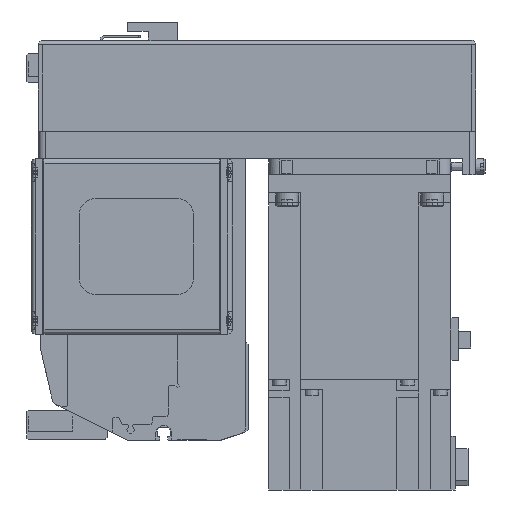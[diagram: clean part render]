
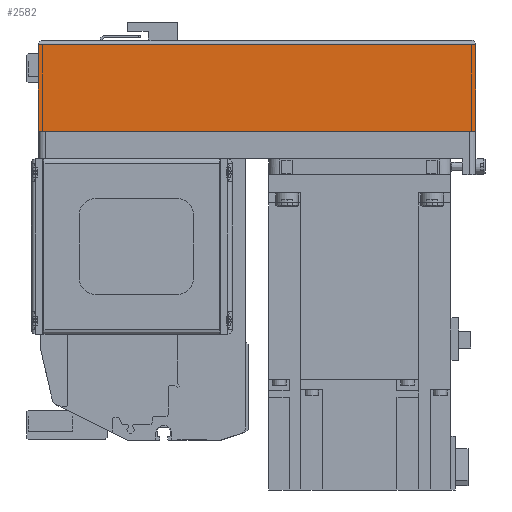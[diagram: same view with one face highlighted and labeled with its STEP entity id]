
A CAD part, left-side view. The second image highlights one B-rep face of the part: STEP entity #2582.
In plain terms, the highlighted planar face has unit normal (-1, 0, 0) as drawn and (0, -1, 0) by its records, which use the part's own axes.
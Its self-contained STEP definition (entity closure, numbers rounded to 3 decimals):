
#2582 = ADVANCED_FACE( '', ( #5730 ), #5731, .T. );
#5730 = FACE_OUTER_BOUND( '', #9534, .T. );
#5731 = PLANE( '', #9535 );
#9534 = EDGE_LOOP( '', ( #17036, #17037, #17038, #17039 ) );
#9535 = AXIS2_PLACEMENT_3D( '', #17040, #17041, #17042 );
#17036 = ORIENTED_EDGE( '', *, *, #22667, .F. );
#17037 = ORIENTED_EDGE( '', *, *, #21849, .F. );
#17038 = ORIENTED_EDGE( '', *, *, #24135, .T. );
#17039 = ORIENTED_EDGE( '', *, *, #24136, .T. );
#17040 = CARTESIAN_POINT( '', ( -192., -40., -12.1 ) );
#17041 = DIRECTION( '', ( 0., -1., 0. ) );
#17042 = DIRECTION( '', ( 0., 0., -1. ) );
#21849 = EDGE_CURVE( '', #26213, #26214, #26215, .T. );
#22667 = EDGE_CURVE( '', #26214, #27589, #27590, .T. );
#24135 = EDGE_CURVE( '', #26213, #29725, #29726, .T. );
#24136 = EDGE_CURVE( '', #29725, #27589, #29727, .T. );
#26213 = VERTEX_POINT( '', #32830 );
#26214 = VERTEX_POINT( '', #32831 );
#26215 = LINE( '', #32832, #32833 );
#27589 = VERTEX_POINT( '', #34925 );
#27590 = LINE( '', #34926, #34927 );
#29725 = VERTEX_POINT( '', #38359 );
#29726 = LINE( '', #38360, #38361 );
#29727 = LINE( '', #38362, #38363 );
#32830 = CARTESIAN_POINT( '', ( -192., -40., -12.1 ) );
#32831 = CARTESIAN_POINT( '', ( 0., -40., -12.1 ) );
#32832 = CARTESIAN_POINT( '', ( -192., -40., -12.1 ) );
#32833 = VECTOR( '', #40743, 1000. );
#34925 = CARTESIAN_POINT( '', ( 0., -40., -50. ) );
#34926 = CARTESIAN_POINT( '', ( 0., -40., -12.1 ) );
#34927 = VECTOR( '', #41789, 1000. );
#38359 = CARTESIAN_POINT( '', ( -192., -40., -50. ) );
#38360 = CARTESIAN_POINT( '', ( -192., -40., -12.1 ) );
#38361 = VECTOR( '', #43572, 1000. );
#38362 = CARTESIAN_POINT( '', ( -192., -40., -50. ) );
#38363 = VECTOR( '', #43573, 1000. );
#40743 = DIRECTION( '', ( 1., 0., 0. ) );
#41789 = DIRECTION( '', ( 0., 0., -1. ) );
#43572 = DIRECTION( '', ( 0., 0., -1. ) );
#43573 = DIRECTION( '', ( 1., 0., 0. ) );
